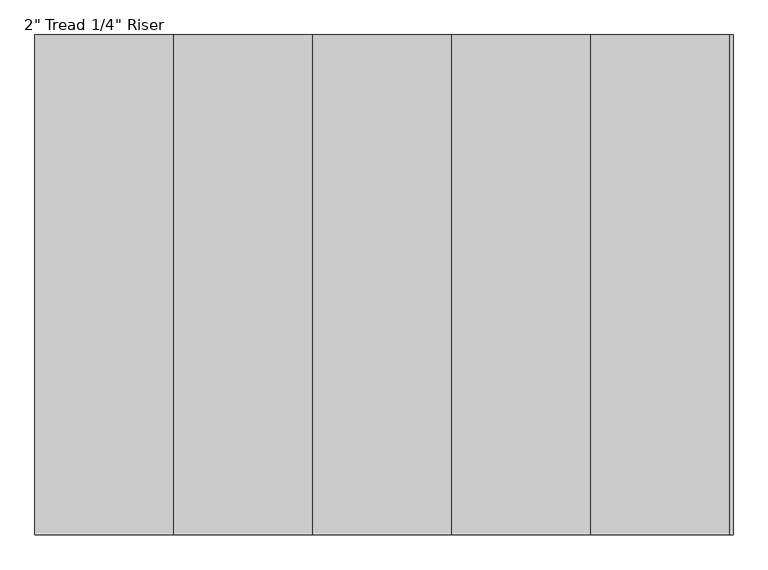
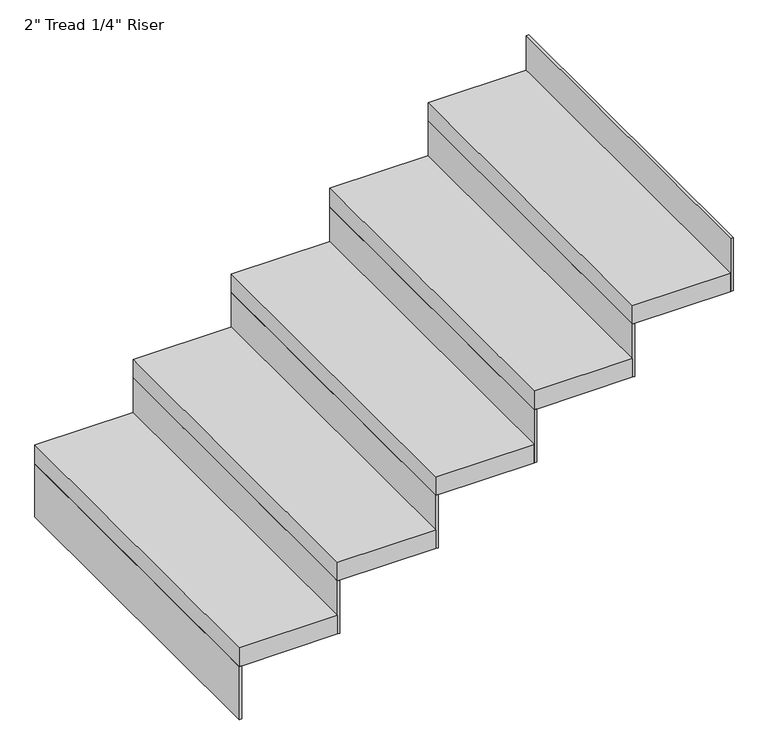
"""IFC4 building model written with IfcOpenShell, lengths in millimetres: stair flight geometry."""

from ifc_helpers import new_model, si_unit, frame, origin, place, context, project, spatial, polyline, outline, extrude, source, transform, mapped, element, save


def stair_flight_80cff1b7(model_context):
    return source(origin(), model_context, "Body", "SweptSolid", [
        extrude(outline(polyline([(89180.9548368, -18868.6990002), (89174.6048368, -18868.6990002), (89174.6048368, -17954.2990002), (89180.9548368, -17954.2990002), (89180.9548368, -18868.6990002)])), frame((0.0, 0.0, 2126.3428571), z_axis=(0.0, 0.0, 1.0), x_axis=(1.0, 0.0, 0.0)), (0.0, 0.0, 1.0), 145.1428571),
        extrude(outline(polyline([(89428.6048368, -17954.2990002), (89428.6048368, -18868.6990002), (89174.6048368, -18868.6990002), (89174.6048368, -17954.2990002), (89428.6048368, -17954.2990002)])), frame((0.0, 0.0, 2271.4857143), z_axis=(0.0, 0.0, 1.0), x_axis=(1.0, 0.0, 0.0)), (0.0, 0.0, 1.0), 50.8),
        extrude(outline(polyline([(89434.9548368, -18868.6990002), (89428.6048368, -18868.6990002), (89428.6048368, -17954.2990002), (89434.9548368, -17954.2990002), (89434.9548368, -18868.6990002)])), frame((0.0, 0.0, 2271.4857143), z_axis=(0.0, 0.0, 1.0), x_axis=(1.0, 0.0, 0.0)), (0.0, 0.0, 1.0), 145.1428571),
        extrude(outline(polyline([(89682.6048368, -17954.2990002), (89682.6048368, -18868.6990002), (89428.6048368, -18868.6990002), (89428.6048368, -17954.2990002), (89682.6048368, -17954.2990002)])), frame((0.0, 0.0, 2416.6285714), z_axis=(0.0, 0.0, 1.0), x_axis=(1.0, 0.0, 0.0)), (0.0, 0.0, 1.0), 50.8),
        extrude(outline(polyline([(89688.9548368, -18868.6990002), (89682.6048368, -18868.6990002), (89682.6048368, -17954.2990002), (89688.9548368, -17954.2990002), (89688.9548368, -18868.6990002)])), frame((0.0, 0.0, 2416.6285714), z_axis=(0.0, 0.0, 1.0), x_axis=(1.0, 0.0, 0.0)), (0.0, 0.0, 1.0), 145.1428571),
        extrude(outline(polyline([(89936.6048368, -17954.2990002), (89936.6048368, -18868.6990002), (89682.6048368, -18868.6990002), (89682.6048368, -17954.2990002), (89936.6048368, -17954.2990002)])), frame((0.0, 0.0, 2561.7714286), z_axis=(0.0, 0.0, 1.0), x_axis=(1.0, 0.0, 0.0)), (0.0, 0.0, 1.0), 50.8),
        extrude(outline(polyline([(89942.9548368, -18868.6990002), (89936.6048368, -18868.6990002), (89936.6048368, -17954.2990002), (89942.9548368, -17954.2990002), (89942.9548368, -18868.6990002)])), frame((0.0, 0.0, 2561.7714286), z_axis=(0.0, 0.0, 1.0), x_axis=(1.0, 0.0, 0.0)), (0.0, 0.0, 1.0), 145.1428571),
        extrude(outline(polyline([(90190.6048368, -17954.2990002), (90190.6048368, -18868.6990002), (89936.6048368, -18868.6990002), (89936.6048368, -17954.2990002), (90190.6048368, -17954.2990002)])), frame((0.0, 0.0, 2706.9142857), z_axis=(0.0, 0.0, 1.0), x_axis=(1.0, 0.0, 0.0)), (0.0, 0.0, 1.0), 50.8),
        extrude(outline(polyline([(90196.9548368, -18868.6990002), (90190.6048368, -18868.6990002), (90190.6048368, -17954.2990002), (90196.9548368, -17954.2990002), (90196.9548368, -18868.6990002)])), frame((0.0, 0.0, 2706.9142857), z_axis=(0.0, 0.0, 1.0), x_axis=(1.0, 0.0, 0.0)), (0.0, 0.0, 1.0), 145.1428571),
        extrude(outline(polyline([(90450.9548368, -18868.6990002), (90444.6048368, -18868.6990002), (90444.6048368, -17954.2990002), (90450.9548368, -17954.2990002), (90450.9548368, -18868.6990002)])), frame((0.0, 0.0, 2852.0571429), z_axis=(0.0, 0.0, 1.0), x_axis=(1.0, 0.0, 0.0)), (0.0, 0.0, 1.0), 145.1428571),
        extrude(outline(polyline([(90444.6048368, -17954.2990002), (90444.6048368, -18868.6990002), (90190.6048368, -18868.6990002), (90190.6048368, -17954.2990002), (90444.6048368, -17954.2990002)])), frame((0.0, 0.0, 2852.0571429), z_axis=(0.0, 0.0, 1.0), x_axis=(1.0, 0.0, 0.0)), (0.0, 0.0, 1.0), 50.8),
    ])


if __name__ == "__main__":
    model = new_model("IFC4")
    model_context = context("Model", 3, world=origin())
    ifc_project = project(units=[si_unit("LENGTHUNIT", "METRE", prefix="MILLI")], contexts=[model_context])
    site = spatial("IfcSite", under=ifc_project)
    building = spatial("IfcBuilding", under=site)
    placement = place(None, origin())
    stair_flight_shape = stair_flight_80cff1b7(model_context)
    element("IfcStairFlight", 1, ObjectType="2\" Tread 1/4\" Riser", at=placement, inside=building, context=model_context, shape_type="MappedRepresentation", body=[
        mapped(stair_flight_shape, transform((0.0, 0.0, 0.0), x_axis=(1.0, 0.0, 0.0), y_axis=(0.0, 1.0, 0.0), z_axis=(0.0, 0.0, 1.0))),
    ])
    save(model, "model.ifc")
